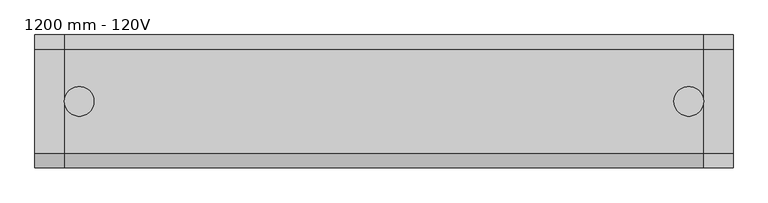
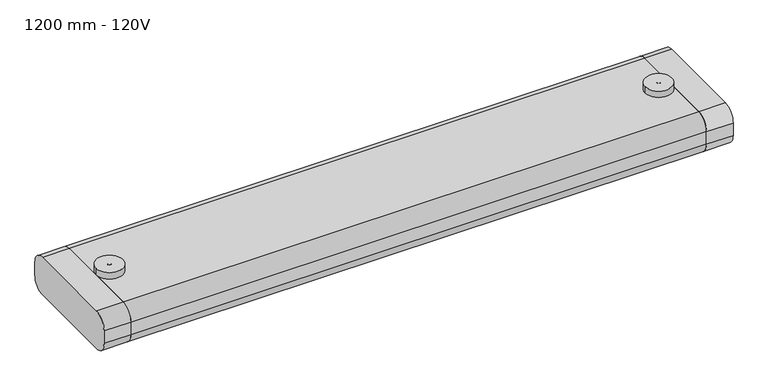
"""IFC4 building model written with IfcOpenShell, lengths in millimetres: light fixture geometry, _Produtos_Arq_Bib_M_Luminária de forro - Linear - 2 Lâmpadas.GLE : 1200 mm - 120V."""

from ifc_helpers import new_model, si_unit, point, frame, frame_2d, origin, place, context, project, spatial, polyline, circle_curve, trimmed, segment, composite_curve, outline, extrude, source, transform, mapped, element, save


def light_fixture_1200_mm_120v_e3a91fee(model_context):
    return source(origin(), model_context, "Body", "SweptSolid", [
        extrude(outline(composite_curve([segment(trimmed(circle_curve(frame_2d((88.9, 2399.2)), 25.4), [point((88.9, 2424.6))], [point((114.3, 2399.2))], False, "CARTESIAN"), True, "CONTINUOUS"), segment(polyline([(114.3, 2399.2), (114.3, 2373.8)]), True, "CONTINUOUS"), segment(trimmed(circle_curve(frame_2d((88.9, 2373.8)), 25.4), [point((114.3, 2373.8))], [point((88.9, 2348.4))], False, "CARTESIAN"), True, "CONTINUOUS"), segment(polyline([(88.9, 2348.4), (-88.9, 2348.4)]), True, "CONTINUOUS"), segment(trimmed(circle_curve(frame_2d((-88.9, 2373.8)), 25.4), [point((-88.9, 2348.4))], [point((-114.3, 2373.8))], False, "CARTESIAN"), True, "CONTINUOUS"), segment(polyline([(-114.3, 2373.8), (-114.3, 2399.2)]), True, "CONTINUOUS"), segment(trimmed(circle_curve(frame_2d((-88.9, 2399.2)), 25.4), [point((-114.3, 2399.2))], [point((-88.9, 2424.6))], False, "CARTESIAN"), True, "CONTINUOUS"), segment(polyline([(-88.9, 2424.6), (88.9, 2424.6)]), True, "CONTINUOUS")], self_intersect=False)), frame((549.2, 0.0, 0.0), z_axis=(1.0, 0.0, 0.0), x_axis=(0.0, 1.0, 0.0)), (0.0, 0.0, 1.0), 50.8),
        extrude(outline(composite_curve([segment(polyline([(-88.9, 2424.6), (88.9, 2424.6)]), True, "CONTINUOUS"), segment(trimmed(circle_curve(frame_2d((88.9, 2399.2)), 25.4), [point((88.9, 2424.6))], [point((114.3, 2399.2))], False, "CARTESIAN"), True, "CONTINUOUS"), segment(polyline([(114.3, 2399.2), (114.3, 2373.8)]), True, "CONTINUOUS"), segment(trimmed(circle_curve(frame_2d((88.9, 2373.8)), 25.4), [point((114.3, 2373.8))], [point((88.9, 2348.4))], False, "CARTESIAN"), True, "CONTINUOUS"), segment(polyline([(88.9, 2348.4), (-88.9, 2348.4)]), True, "CONTINUOUS"), segment(trimmed(circle_curve(frame_2d((-88.9, 2373.8)), 25.4), [point((-88.9, 2348.4))], [point((-114.3, 2373.8))], False, "CARTESIAN"), True, "CONTINUOUS"), segment(polyline([(-114.3, 2373.8), (-114.3, 2399.2)]), True, "CONTINUOUS"), segment(trimmed(circle_curve(frame_2d((-88.9, 2399.2)), 25.4), [point((-114.3, 2399.2))], [point((-88.9, 2424.6))], False, "CARTESIAN"), True, "CONTINUOUS")], self_intersect=False)), frame((-600.0, 0.0, 0.0), z_axis=(1.0, 0.0, 0.0), x_axis=(0.0, 1.0, 0.0)), (0.0, 0.0, 1.0), 50.8),
        extrude(outline(polyline([(549.2, 63.5), (549.2, -63.5), (-549.2, -63.5), (-549.2, 63.5), (549.2, 63.5)])), frame((0.0, 0.0, 2348.4), z_axis=(0.0, 0.0, 1.0), x_axis=(1.0, 0.0, 0.0)), (0.0, 0.0, 1.0), 12.7),
        extrude(outline(composite_curve([segment(trimmed(circle_curve(frame_2d((-523.8883785, 0.0)), 25.4), [point((-549.2883785, 0.0))], [point((-498.4883785, 0.0))], False, "CARTESIAN"), True, "CONTINUOUS"), segment(trimmed(circle_curve(frame_2d((-523.8883785, 0.0)), 25.4), [point((-498.4883785, 0.0))], [point((-549.2883785, 0.0))], False, "CARTESIAN"), True, "CONTINUOUS")], self_intersect=False)), frame((0.0, 0.0, 2425.7), z_axis=(0.0, 0.0, 1.0), x_axis=(1.0, 0.0, 0.0)), (0.0, 0.0, 1.0), 12.7),
        extrude(outline(composite_curve([segment(trimmed(circle_curve(frame_2d((523.8, 0.0)), 25.4), [point((498.4, 0.0))], [point((549.2, 0.0))], False, "CARTESIAN"), True, "CONTINUOUS"), segment(trimmed(circle_curve(frame_2d((523.8, 0.0)), 25.4), [point((549.2, 0.0))], [point((498.4, 0.0))], False, "CARTESIAN"), True, "CONTINUOUS")], self_intersect=False)), frame((0.0, 0.0, 2425.7), z_axis=(0.0, 0.0, 1.0), x_axis=(1.0, 0.0, 0.0)), (0.0, 0.0, 1.0), 12.7),
        extrude(outline(composite_curve([segment(trimmed(circle_curve(frame_2d((-523.8, 0.0)), 3.175), [point((-523.8, 3.175))], [point((-523.8, -3.175))], False, "CARTESIAN"), True, "CONTINUOUS"), segment(trimmed(circle_curve(frame_2d((-523.8, 0.0)), 3.175), [point((-523.8, -3.175))], [point((-523.8, 3.175))], False, "CARTESIAN"), True, "CONTINUOUS")], self_intersect=False)), frame((0.0, 0.0, 2424.6), z_axis=(0.0, 0.0, 1.0), x_axis=(1.0, 0.0, 0.0)), (0.0, 0.0, 1.0), 13.8),
        extrude(outline(composite_curve([segment(trimmed(circle_curve(frame_2d((523.8, 0.0)), 3.175), [point((523.8, 3.175))], [point((523.8, -3.175))], False, "CARTESIAN"), True, "CONTINUOUS"), segment(trimmed(circle_curve(frame_2d((523.8, 0.0)), 3.175), [point((523.8, -3.175))], [point((523.8, 3.175))], False, "CARTESIAN"), True, "CONTINUOUS")], self_intersect=False)), frame((0.0, 0.0, 2424.6), z_axis=(0.0, 0.0, 1.0), x_axis=(1.0, 0.0, 0.0)), (0.0, 0.0, 1.0), 13.8),
        extrude(outline(composite_curve([segment(polyline([(-88.9, 2424.6), (88.9, 2424.6)]), True, "CONTINUOUS"), segment(trimmed(circle_curve(frame_2d((88.9, 2399.2)), 25.4), [point((88.9, 2424.6))], [point((114.3, 2399.2))], False, "CARTESIAN"), True, "CONTINUOUS"), segment(polyline([(114.3, 2399.2), (114.3, 2373.8)]), True, "CONTINUOUS"), segment(trimmed(circle_curve(frame_2d((88.9, 2373.8)), 25.4), [point((114.3, 2373.8))], [point((88.9, 2348.4))], False, "CARTESIAN"), True, "CONTINUOUS"), segment(polyline([(88.9, 2348.4), (63.5, 2348.4), (63.5, 2373.8), (-63.5, 2373.8), (-63.5, 2348.4), (-88.9, 2348.4)]), True, "CONTINUOUS"), segment(trimmed(circle_curve(frame_2d((-88.9, 2373.8)), 25.4), [point((-88.9, 2348.4))], [point((-114.3, 2373.8))], False, "CARTESIAN"), True, "CONTINUOUS"), segment(polyline([(-114.3, 2373.8), (-114.3, 2399.2)]), True, "CONTINUOUS"), segment(trimmed(circle_curve(frame_2d((-88.9, 2399.2)), 25.4), [point((-114.3, 2399.2))], [point((-88.9, 2424.6))], False, "CARTESIAN"), True, "CONTINUOUS")], self_intersect=False)), frame((-549.2, 0.0, 0.0), z_axis=(1.0, 0.0, 0.0), x_axis=(0.0, 1.0, 0.0)), (0.0, 0.0, 1.0), 1098.4),
    ])


if __name__ == "__main__":
    model = new_model("IFC4")
    model_context = context("Model", 3, world=origin())
    ifc_project = project(units=[si_unit("LENGTHUNIT", "METRE", prefix="MILLI")], contexts=[model_context])
    site = spatial("IfcSite", under=ifc_project)
    building = spatial("IfcBuilding", under=site)
    placement = place(None, origin())
    light_fixture_1200_mm_120v_shape = light_fixture_1200_mm_120v_e3a91fee(model_context)
    element("IfcLightFixture", 1, ObjectType="_Produtos_Arq_Bib_M_Luminária de forro - Linear - 2 Lâmpadas.GLE : 1200 mm - 120V", at=placement, inside=building, context=model_context, shape_type="MappedRepresentation", body=[
        mapped(light_fixture_1200_mm_120v_shape, transform((0.0, 0.0, 0.0), x_axis=(1.0, 0.0, 0.0), y_axis=(0.0, 1.0, 0.0), z_axis=(0.0, 0.0, 1.0))),
    ])
    save(model, "model.ifc")
